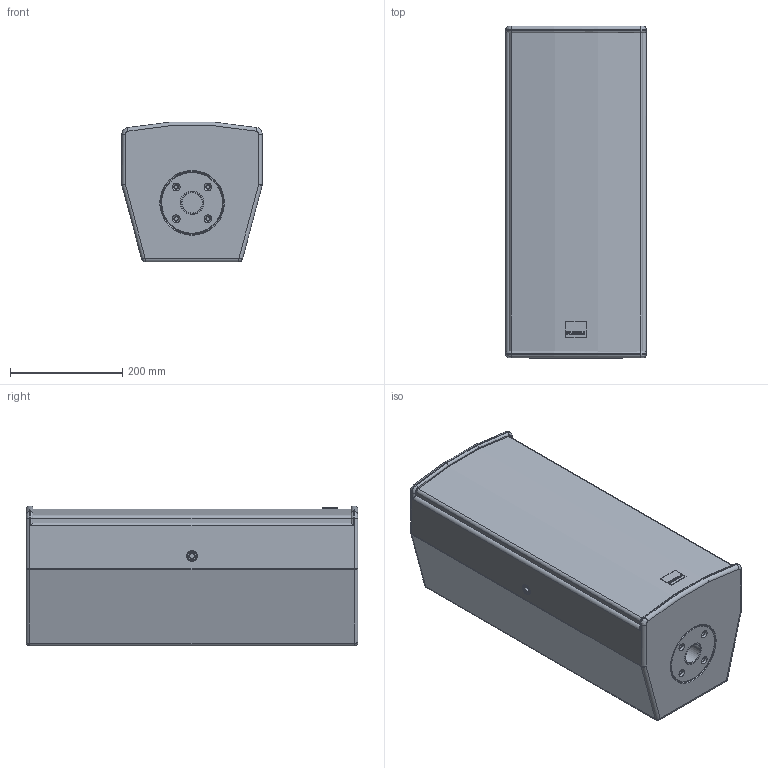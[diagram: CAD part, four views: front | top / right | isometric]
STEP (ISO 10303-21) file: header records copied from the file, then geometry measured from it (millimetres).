
FILE_DESCRIPTION (( 'STEP AP203' ), '1' );
FILE_NAME ('SEEBURG_A3.STEP', '2012-09-27T13:33:32', ( 'Fabian' ), ( '' ), 'SwSTEP 2.0', 'SolidWorks 2009', '' );
FILE_SCHEMA (( 'CONFIG_CONTROL_DESIGN' ));
Length unit declared in the file: millimetre
Products named in the file (2): A3; SEEBURG_A3
Assembly tree (1 placements, depth 2):
  SEEBURG_A3
    A3
Bounding box: 250.21 x 590 x 248.75 mm (x, y, z)
Volume: 10652893.9 mm3; surface area: 1556866.4 mm2
Topology: 16 solids, 16 shells, 407 faces, 997 edges, 633 vertices
Faces by surface type: cylinder 172, plane 141, cone 48, torus 28, sphere 12, bspline 6
Entity records: 13087 total; most frequent: CARTESIAN_POINT 3033, DIRECTION 2202, ORIENTED_EDGE 1978, EDGE_CURVE 989, AXIS2_PLACEMENT_3D 850, VERTEX_POINT 629, VECTOR 502, LINE 502
